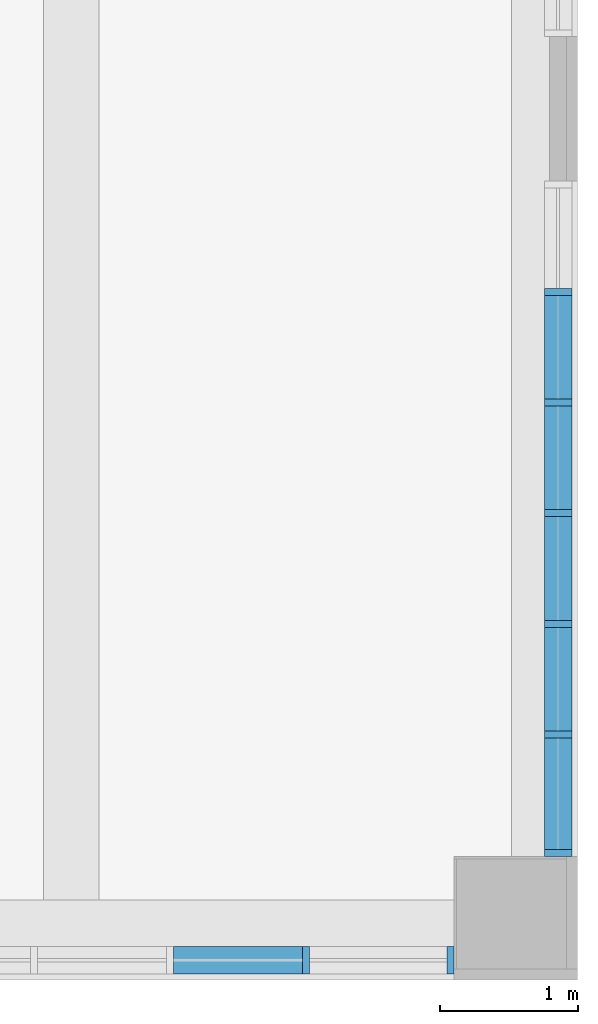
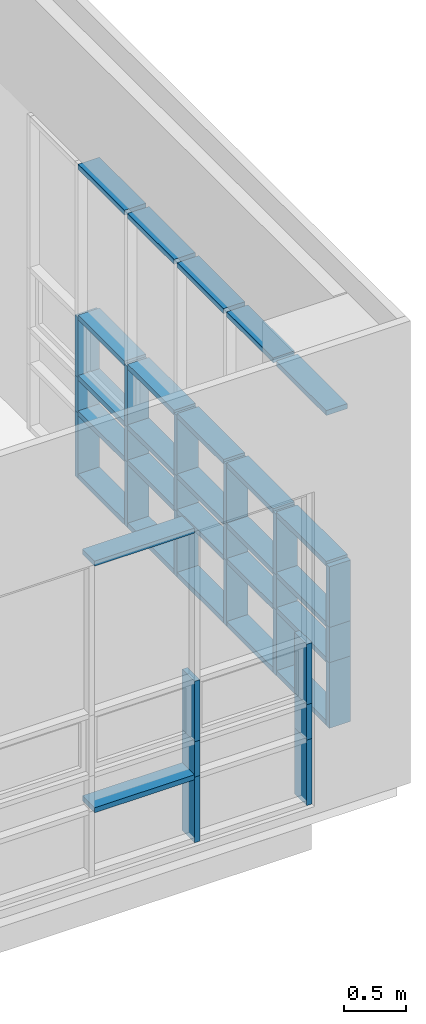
# One storey, part 23 of 74: 51 members, 2 elements without a shape of their own.
"""IFC2X3 building model written with IfcOpenShell, lengths in millimetres."""

from ifc_helpers import new_model, entity, si_unit, converted_unit, derived_unit, direction, frame, origin, origin_2d_with_axis, place, context, subcontext, project, spatial, rectangle, extrude, source, transform, mapped, material, type_object, type_shapes, element, aggregate, save


model = new_model("IFC2X3")

# Units and contexts
model_context = context("Model", 3, precision=0.01, world=origin(), true_north=direction((6.123031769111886e-17, 1.0)))
body_context = subcontext(model_context, "Body", "Model", "MODEL_VIEW")
ifc_project = project(units=[si_unit("LENGTHUNIT", "METRE", prefix="MILLI"), si_unit("AREAUNIT", "SQUARE_METRE"), si_unit("VOLUMEUNIT", "CUBIC_METRE"), converted_unit("PLANEANGLEUNIT", "DEGREE", entity("IfcRatioMeasure", 0.017453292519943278), si_unit("PLANEANGLEUNIT", "RADIAN"), dimensions=[0, 0, 0, 0, 0, 0, 0]), si_unit("MASSUNIT", "GRAM", prefix="KILO"), derived_unit("MASSDENSITYUNIT", [(si_unit("MASSUNIT", "GRAM", prefix="KILO"), 1), (si_unit("LENGTHUNIT", "METRE"), -3)]), derived_unit("MOMENTOFINERTIAUNIT", [(si_unit("LENGTHUNIT", "METRE"), 4)]), si_unit("TIMEUNIT", "SECOND"), si_unit("FREQUENCYUNIT", "HERTZ"), si_unit("THERMODYNAMICTEMPERATUREUNIT", "DEGREE_CELSIUS"), derived_unit("THERMALTRANSMITTANCEUNIT", [(si_unit("MASSUNIT", "GRAM", prefix="KILO"), 1), (si_unit("THERMODYNAMICTEMPERATUREUNIT", "KELVIN"), -1), (si_unit("TIMEUNIT", "SECOND"), -3)]), derived_unit("VOLUMETRICFLOWRATEUNIT", [(si_unit("LENGTHUNIT", "METRE"), 3), (si_unit("TIMEUNIT", "SECOND"), -1)]), derived_unit("MASSFLOWRATEUNIT", [(si_unit("MASSUNIT", "GRAM", prefix="KILO"), 1), (si_unit("TIMEUNIT", "SECOND"), -1)]), derived_unit("ROTATIONALFREQUENCYUNIT", [(si_unit("TIMEUNIT", "SECOND"), -1)]), si_unit("ELECTRICCURRENTUNIT", "AMPERE"), si_unit("ELECTRICVOLTAGEUNIT", "VOLT"), si_unit("POWERUNIT", "WATT"), si_unit("FORCEUNIT", "NEWTON", prefix="KILO"), si_unit("ILLUMINANCEUNIT", "LUX"), si_unit("LUMINOUSFLUXUNIT", "LUMEN"), si_unit("LUMINOUSINTENSITYUNIT", "CANDELA"), derived_unit("USERDEFINED", [(si_unit("MASSUNIT", "GRAM", prefix="KILO"), -1), (si_unit("LENGTHUNIT", "METRE"), -2), (si_unit("TIMEUNIT", "SECOND"), 3), (si_unit("LUMINOUSFLUXUNIT", "LUMEN"), 1)]), derived_unit("SOUNDPOWERUNIT", [(si_unit("MASSUNIT", "GRAM", prefix="KILO"), 1), (si_unit("LENGTHUNIT", "METRE"), 2), (si_unit("TIMEUNIT", "SECOND"), -3)]), derived_unit("SOUNDPRESSUREUNIT", [(si_unit("MASSUNIT", "GRAM", prefix="KILO"), 1), (si_unit("LENGTHUNIT", "METRE"), -1), (si_unit("TIMEUNIT", "SECOND"), -2)]), derived_unit("LINEARVELOCITYUNIT", [(si_unit("LENGTHUNIT", "METRE"), 1), (si_unit("TIMEUNIT", "SECOND"), -1)]), si_unit("PRESSUREUNIT", "PASCAL"), derived_unit("USERDEFINED", [(si_unit("LENGTHUNIT", "METRE"), -2), (si_unit("MASSUNIT", "GRAM", prefix="KILO"), 1), (si_unit("TIMEUNIT", "SECOND"), -2)]), derived_unit("LINEARFORCEUNIT", [(si_unit("MASSUNIT", "GRAM", prefix="KILO"), 1), (si_unit("LENGTHUNIT", "METRE"), 1), (si_unit("TIMEUNIT", "SECOND"), -2), (si_unit("LENGTHUNIT", "METRE"), -1)]), derived_unit("PLANARFORCEUNIT", [(si_unit("MASSUNIT", "GRAM", prefix="KILO"), 1), (si_unit("LENGTHUNIT", "METRE"), 1), (si_unit("TIMEUNIT", "SECOND"), -2), (si_unit("LENGTHUNIT", "METRE"), -2)])], contexts=[model_context])

# Site, building, storey
site_placement = place(None, frame((-14167.972527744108, -657.2125860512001, 0.0)))
site = spatial("IfcSite", under=ifc_project, at=site_placement, Name="Default", CompositionType="ELEMENT")
building_placement = place(site_placement, origin())
building = spatial("IfcBuilding", under=site, at=building_placement, Name="Sample Building", CompositionType="ELEMENT")
storey_placement = place(building_placement, frame((0.0, 0.0, 4800.0)))
storey = spatial("IfcBuildingStorey", under=building, at=storey_placement, Name="지상 2층", CompositionType="ELEMENT", Elevation=4800.000000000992)

# Curtain wall, members
curtain_wall_type = type_object("IfcCurtainWallType", Name="커튼월:CW112-스테인리스 스틸 커튼월", PredefinedType="NOTDEFINED")
curtain_wall_1_placement = place(storey_placement, frame((0.0, 0.0, -4800.0)))
curtain_wall_1 = element("IfcCurtainWall", 1, at=curtain_wall_1_placement, inside=storey, type_object=curtain_wall_type, Name="커튼월:CW112-스테인리스 스틸 커튼월", ObjectType="커튼월:CW112-스테인리스 스틸 커튼월")
ifc_material = material(Name="<Unnamed>")
member_type_1 = type_object("IfcMemberType", Name="직사각형 멀리언:CW200-직사각형 멀리언 50x200mm", PredefinedType="MULLION", material=ifc_material)
shared_shape_1 = source(origin(), body_context, "Body", "SweptSolid", [
    extrude(rectangle(XDim=200.0, YDim=50.0, at=origin_2d_with_axis()), frame((-25.0, 0.0, -650.0), z_axis=(0.0, 0.0, 1.0), x_axis=(0.0, -1.0, 0.0)), (0.0, 0.0, 1.0), 650.0000000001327),
])
type_shapes(member_type_1, [shared_shape_1])
member_1_placement = place(curtain_wall_1_placement, frame((50649.98118746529, 619.71229514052, 4880.0), z_axis=(0.0, 0.0, -1.0), x_axis=(1.0, 0.0, 0.0)))
member_1 = element("IfcMember", 2, at=member_1_placement, type_object=member_type_1, material=ifc_material, Name="직사각형 멀리언:CW200-직사각형 멀리언 50x200mm", ObjectType="직사각형 멀리언:CW200-직사각형 멀리언 50x200mm", context=body_context, shape_type="MappedRepresentation", body=[
    mapped(shared_shape_1, transform((0.0, 0.0, 0.0), scale=1.0)),
])
member_type_2 = type_object("IfcMemberType", Name="직사각형 멀리언:CW200-직사각형 멀리언 50x200mm", PredefinedType="MULLION", material=ifc_material)
shared_shape_2 = source(origin(), body_context, "Body", "SweptSolid", [
    extrude(rectangle(XDim=200.0, YDim=50.0, at=origin_2d_with_axis()), frame((0.0, 0.0, -650.0), z_axis=(0.0, 0.0, 1.0), x_axis=(0.0, -1.0, 0.0)), (0.0, 0.0, 1.0), 650.0000000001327),
])
type_shapes(member_type_2, [shared_shape_2])
member_2_placement = place(curtain_wall_1_placement, frame((49573.32230636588, 619.7122951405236, 4880.0), z_axis=(0.0, 0.0, -1.0), x_axis=(1.0, 0.0, 0.0)))
member_2 = element("IfcMember", 3, at=member_2_placement, type_object=member_type_2, material=ifc_material, Name="직사각형 멀리언:CW200-직사각형 멀리언 50x200mm", ObjectType="직사각형 멀리언:CW200-직사각형 멀리언 50x200mm", context=body_context, shape_type="MappedRepresentation", body=[
    mapped(shared_shape_2, transform((0.0, 0.0, 0.0), scale=1.0)),
])

curtain_wall_2_placement = place(storey_placement, frame((0.0, 0.0, -4800.0)))
curtain_wall_2 = element("IfcCurtainWall", 4, at=curtain_wall_2_placement, inside=storey, type_object=curtain_wall_type, Name="커튼월:CW112-스테인리스 스틸 커튼월", ObjectType="커튼월:CW112-스테인리스 스틸 커튼월")
member_3_placement = place(curtain_wall_2_placement, frame((51405.46382893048, 2261.3792527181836, 4880.0), z_axis=(0.0, 0.0, -1.0), x_axis=(0.0, 1.0, 0.0)))
member_3 = element("IfcMember", 5, at=member_3_placement, type_object=member_type_2, material=ifc_material, Name="직사각형 멀리언:CW200-직사각형 멀리언 50x200mm", ObjectType="직사각형 멀리언:CW200-직사각형 멀리언 50x200mm", context=body_context, shape_type="MappedRepresentation", body=[
    mapped(shared_shape_2, transform((0.0, 0.0, 0.0), scale=1.0)),
])
member_4_placement = place(curtain_wall_2_placement, frame((51405.46382893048, 3065.5459193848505, 4880.0), z_axis=(0.0, 0.0, -1.0), x_axis=(0.0, 1.0, 0.0)))
member_4 = element("IfcMember", 6, at=member_4_placement, type_object=member_type_2, material=ifc_material, Name="직사각형 멀리언:CW200-직사각형 멀리언 50x200mm", ObjectType="직사각형 멀리언:CW200-직사각형 멀리언 50x200mm", context=body_context, shape_type="MappedRepresentation", body=[
    mapped(shared_shape_2, transform((0.0, 0.0, 0.0), scale=1.0)),
])
member_5_placement = place(curtain_wall_2_placement, frame((51405.463828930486, 3869.7125860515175, 4880.0), z_axis=(0.0, 0.0, -1.0), x_axis=(0.0, 1.0, 0.0)))
member_5 = element("IfcMember", 7, at=member_5_placement, type_object=member_type_2, material=ifc_material, Name="직사각형 멀리언:CW200-직사각형 멀리언 50x200mm", ObjectType="직사각형 멀리언:CW200-직사각형 멀리언 50x200mm", context=body_context, shape_type="MappedRepresentation", body=[
    mapped(shared_shape_2, transform((0.0, 0.0, 0.0), scale=1.0)),
])
member_6_placement = place(curtain_wall_2_placement, frame((51405.463828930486, 4673.879252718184, 4880.0), z_axis=(0.0, 0.0, -1.0), x_axis=(0.0, 1.0, 0.0)))
member_6 = element("IfcMember", 8, at=member_6_placement, type_object=member_type_2, material=ifc_material, Name="직사각형 멀리언:CW200-직사각형 멀리언 50x200mm", ObjectType="직사각형 멀리언:CW200-직사각형 멀리언 50x200mm", context=body_context, shape_type="MappedRepresentation", body=[
    mapped(shared_shape_2, transform((0.0, 0.0, 0.0), scale=1.0)),
])
member_7_placement = place(curtain_wall_2_placement, frame((51405.463828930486, 5478.04591938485, 4880.0), z_axis=(0.0, 0.0, -1.0), x_axis=(0.0, 1.0, 0.0)))
member_7 = element("IfcMember", 9, at=member_7_placement, type_object=member_type_2, material=ifc_material, Name="직사각형 멀리언:CW200-직사각형 멀리언 50x200mm", ObjectType="직사각형 멀리언:CW200-직사각형 멀리언 50x200mm", context=body_context, shape_type="MappedRepresentation", body=[
    mapped(shared_shape_2, transform((0.0, 0.0, 0.0), scale=1.0)),
])
member_type_3 = type_object("IfcMemberType", Name="직사각형 멀리언:CW200-직사각형 멀리언 50x200mm", PredefinedType="MULLION", material=ifc_material)
shared_shape_3 = source(origin(), body_context, "Body", "SweptSolid", [
    extrude(rectangle(XDim=200.0, YDim=50.0, at=origin_2d_with_axis()), frame((-25.0, 0.0, -600.0), z_axis=(0.0, 0.0, 1.0), x_axis=(0.0, -1.0, 0.0)), (0.0, 0.0, 1.0), 600.0),
])
type_shapes(member_type_3, [shared_shape_3])
member_8_placement = place(curtain_wall_2_placement, frame((51405.46382893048, 1375.212307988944, 6480.0), z_axis=(0.0, 0.0, 1.0), x_axis=(0.0, -1.0, 0.0)))
member_8 = element("IfcMember", 10, at=member_8_placement, type_object=member_type_3, material=ifc_material, Name="직사각형 멀리언:CW200-직사각형 멀리언 50x200mm", ObjectType="직사각형 멀리언:CW200-직사각형 멀리언 50x200mm", context=body_context, shape_type="MappedRepresentation", body=[
    mapped(shared_shape_3, transform((0.0, 0.0, 0.0), scale=1.0)),
])

# Member
member_type_4 = type_object("IfcMemberType", Name="직사각형 멀리언:CW200-직사각형 멀리언 50x200mm", PredefinedType="MULLION", material=ifc_material)
shared_shape_4 = source(origin(), body_context, "Body", "SweptSolid", [
    extrude(rectangle(XDim=200.0, YDim=50.0, at=origin_2d_with_axis()), frame((-25.0, 0.0, -600.0), z_axis=(0.0, 0.0, 1.0), x_axis=(0.0, -1.0, 0.0)), (0.0, 0.0, 1.0), 600.0),
])
type_shapes(member_type_4, [shared_shape_4])
member_9_placement = place(curtain_wall_1_placement, frame((50649.98118746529, 619.71229514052, 5880.0), z_axis=(0.0, 0.0, -1.0), x_axis=(1.0, 0.0, 0.0)))
member_9 = element("IfcMember", 11, at=member_9_placement, type_object=member_type_4, material=ifc_material, Name="직사각형 멀리언:CW200-직사각형 멀리언 50x200mm", ObjectType="직사각형 멀리언:CW200-직사각형 멀리언 50x200mm", context=body_context, shape_type="MappedRepresentation", body=[
    mapped(shared_shape_4, transform((0.0, 0.0, 0.0), scale=1.0)),
])

member_type_5 = type_object("IfcMemberType", Name="직사각형 멀리언:CW200-직사각형 멀리언 50x200mm", PredefinedType="MULLION", material=ifc_material)
shared_shape_5 = source(origin(), body_context, "Body", "SweptSolid", [
    extrude(rectangle(XDim=200.0, YDim=50.0, at=origin_2d_with_axis()), frame((-25.0, 0.0, -350.0), z_axis=(0.0, 0.0, 1.0), x_axis=(0.0, -1.0, 0.0)), (0.0, 0.0, 1.0), 349.9999999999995),
])
type_shapes(member_type_5, [shared_shape_5])
member_10_placement = place(curtain_wall_2_placement, frame((51405.46382893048, 1375.212307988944, 5880.0), z_axis=(0.0, 0.0, 1.0), x_axis=(0.0, -1.0, 0.0)))
member_10 = element("IfcMember", 12, at=member_10_placement, type_object=member_type_5, material=ifc_material, Name="직사각형 멀리언:CW200-직사각형 멀리언 50x200mm", ObjectType="직사각형 멀리언:CW200-직사각형 멀리언 50x200mm", context=body_context, shape_type="MappedRepresentation", body=[
    mapped(shared_shape_5, transform((0.0, 0.0, 0.0), scale=1.0)),
])

member_type_6 = type_object("IfcMemberType", Name="직사각형 멀리언:CW200-직사각형 멀리언 50x200mm", PredefinedType="MULLION", material=ifc_material)
shared_shape_6 = source(origin(), body_context, "Body", "SweptSolid", [
    extrude(rectangle(XDim=200.0, YDim=50.0, at=origin_2d_with_axis()), frame((0.0, 0.0, -600.0), z_axis=(0.0, 0.0, 1.0), x_axis=(0.0, -1.0, 0.0)), (0.0, 0.0, 1.0), 600.0),
])
type_shapes(member_type_6, [shared_shape_6])
member_11_placement = place(curtain_wall_1_placement, frame((49573.32230636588, 619.7122951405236, 5880.0), z_axis=(0.0, 0.0, -1.0), x_axis=(1.0, 0.0, 0.0)))
member_11 = element("IfcMember", 13, at=member_11_placement, type_object=member_type_6, material=ifc_material, Name="직사각형 멀리언:CW200-직사각형 멀리언 50x200mm", ObjectType="직사각형 멀리언:CW200-직사각형 멀리언 50x200mm", context=body_context, shape_type="MappedRepresentation", body=[
    mapped(shared_shape_6, transform((0.0, 0.0, 0.0), scale=1.0)),
])

member_12_placement = place(curtain_wall_2_placement, frame((51405.46382893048, 2261.3792527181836, 5880.0), z_axis=(0.0, 0.0, -1.0), x_axis=(0.0, 1.0, 0.0)))
member_12 = element("IfcMember", 14, at=member_12_placement, type_object=member_type_6, material=ifc_material, Name="직사각형 멀리언:CW200-직사각형 멀리언 50x200mm", ObjectType="직사각형 멀리언:CW200-직사각형 멀리언 50x200mm", context=body_context, shape_type="MappedRepresentation", body=[
    mapped(shared_shape_6, transform((0.0, 0.0, 0.0), scale=1.0)),
])

member_13_placement = place(curtain_wall_2_placement, frame((51405.46382893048, 3065.5459193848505, 5880.0), z_axis=(0.0, 0.0, -1.0), x_axis=(0.0, 1.0, 0.0)))
member_13 = element("IfcMember", 15, at=member_13_placement, type_object=member_type_6, material=ifc_material, Name="직사각형 멀리언:CW200-직사각형 멀리언 50x200mm", ObjectType="직사각형 멀리언:CW200-직사각형 멀리언 50x200mm", context=body_context, shape_type="MappedRepresentation", body=[
    mapped(shared_shape_6, transform((0.0, 0.0, 0.0), scale=1.0)),
])

member_14_placement = place(curtain_wall_2_placement, frame((51405.463828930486, 3869.7125860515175, 5880.0), z_axis=(0.0, 0.0, -1.0), x_axis=(0.0, 1.0, 0.0)))
member_14 = element("IfcMember", 16, at=member_14_placement, type_object=member_type_6, material=ifc_material, Name="직사각형 멀리언:CW200-직사각형 멀리언 50x200mm", ObjectType="직사각형 멀리언:CW200-직사각형 멀리언 50x200mm", context=body_context, shape_type="MappedRepresentation", body=[
    mapped(shared_shape_6, transform((0.0, 0.0, 0.0), scale=1.0)),
])

member_15_placement = place(curtain_wall_2_placement, frame((51405.463828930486, 4673.879252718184, 5880.0), z_axis=(0.0, 0.0, -1.0), x_axis=(0.0, 1.0, 0.0)))
member_15 = element("IfcMember", 17, at=member_15_placement, type_object=member_type_6, material=ifc_material, Name="직사각형 멀리언:CW200-직사각형 멀리언 50x200mm", ObjectType="직사각형 멀리언:CW200-직사각형 멀리언 50x200mm", context=body_context, shape_type="MappedRepresentation", body=[
    mapped(shared_shape_6, transform((0.0, 0.0, 0.0), scale=1.0)),
])

member_16_placement = place(curtain_wall_2_placement, frame((51405.463828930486, 5478.04591938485, 5880.0), z_axis=(0.0, 0.0, -1.0), x_axis=(0.0, 1.0, 0.0)))
member_16 = element("IfcMember", 18, at=member_16_placement, type_object=member_type_6, material=ifc_material, Name="직사각형 멀리언:CW200-직사각형 멀리언 50x200mm", ObjectType="직사각형 멀리언:CW200-직사각형 멀리언 50x200mm", context=body_context, shape_type="MappedRepresentation", body=[
    mapped(shared_shape_6, transform((0.0, 0.0, 0.0), scale=1.0)),
])

member_type_7 = type_object("IfcMemberType", Name="직사각형 멀리언:CW200-직사각형 멀리언 50x200mm", PredefinedType="MULLION", material=ifc_material)
shared_shape_7 = source(origin(), body_context, "Body", "SweptSolid", [
    extrude(rectangle(XDim=200.0, YDim=50.0, at=origin_2d_with_axis()), frame((-25.0, 0.0, -350.0), z_axis=(0.0, 0.0, 1.0), x_axis=(0.0, -1.0, 0.0)), (0.0, 0.0, 1.0), 349.9999999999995),
])
type_shapes(member_type_7, [shared_shape_7])
member_17_placement = place(curtain_wall_1_placement, frame((50649.98118746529, 619.71229514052, 5530.0), z_axis=(0.0, 0.0, -1.0), x_axis=(1.0, 0.0, 0.0)))
member_17 = element("IfcMember", 19, at=member_17_placement, type_object=member_type_7, material=ifc_material, Name="직사각형 멀리언:CW200-직사각형 멀리언 50x200mm", ObjectType="직사각형 멀리언:CW200-직사각형 멀리언 50x200mm", context=body_context, shape_type="MappedRepresentation", body=[
    mapped(shared_shape_7, transform((0.0, 0.0, 0.0), scale=1.0)),
])

member_type_8 = type_object("IfcMemberType", Name="직사각형 멀리언:CW200-직사각형 멀리언 50x200mm", PredefinedType="MULLION", material=ifc_material)
shared_shape_8 = source(origin(), body_context, "Body", "SweptSolid", [
    extrude(rectangle(XDim=200.0, YDim=50.0, at=origin_2d_with_axis()), frame((-25.0, 0.0, -650.0), z_axis=(0.0, 0.0, 1.0), x_axis=(0.0, -1.0, 0.0)), (0.0, 0.0, 1.0), 650.0000000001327),
])
type_shapes(member_type_8, [shared_shape_8])
member_18_placement = place(curtain_wall_2_placement, frame((51405.46382893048, 1375.212307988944, 5530.0), z_axis=(0.0, 0.0, 1.0), x_axis=(0.0, -1.0, 0.0)))
member_18 = element("IfcMember", 20, at=member_18_placement, type_object=member_type_8, material=ifc_material, Name="직사각형 멀리언:CW200-직사각형 멀리언 50x200mm", ObjectType="직사각형 멀리언:CW200-직사각형 멀리언 50x200mm", context=body_context, shape_type="MappedRepresentation", body=[
    mapped(shared_shape_8, transform((0.0, 0.0, 0.0), scale=1.0)),
])

member_type_9 = type_object("IfcMemberType", Name="직사각형 멀리언:CW200-직사각형 멀리언 50x200mm", PredefinedType="MULLION", material=ifc_material)
shared_shape_9 = source(origin(), body_context, "Body", "SweptSolid", [
    extrude(rectangle(XDim=200.0, YDim=50.0, at=origin_2d_with_axis()), frame((0.0, 0.0, -350.0), z_axis=(0.0, 0.0, 1.0), x_axis=(0.0, -1.0, 0.0)), (0.0, 0.0, 1.0), 349.9999999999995),
])
type_shapes(member_type_9, [shared_shape_9])
member_19_placement = place(curtain_wall_1_placement, frame((49573.32230636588, 619.7122951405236, 5530.0), z_axis=(0.0, 0.0, -1.0), x_axis=(1.0, 0.0, 0.0)))
member_19 = element("IfcMember", 21, at=member_19_placement, type_object=member_type_9, material=ifc_material, Name="직사각형 멀리언:CW200-직사각형 멀리언 50x200mm", ObjectType="직사각형 멀리언:CW200-직사각형 멀리언 50x200mm", context=body_context, shape_type="MappedRepresentation", body=[
    mapped(shared_shape_9, transform((0.0, 0.0, 0.0), scale=1.0)),
])

member_20_placement = place(curtain_wall_2_placement, frame((51405.46382893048, 2261.3792527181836, 5530.0), z_axis=(0.0, 0.0, -1.0), x_axis=(0.0, 1.0, 0.0)))
member_20 = element("IfcMember", 22, at=member_20_placement, type_object=member_type_9, material=ifc_material, Name="직사각형 멀리언:CW200-직사각형 멀리언 50x200mm", ObjectType="직사각형 멀리언:CW200-직사각형 멀리언 50x200mm", context=body_context, shape_type="MappedRepresentation", body=[
    mapped(shared_shape_9, transform((0.0, 0.0, 0.0), scale=1.0)),
])

member_21_placement = place(curtain_wall_2_placement, frame((51405.46382893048, 3065.5459193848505, 5530.0), z_axis=(0.0, 0.0, -1.0), x_axis=(0.0, 1.0, 0.0)))
member_21 = element("IfcMember", 23, at=member_21_placement, type_object=member_type_9, material=ifc_material, Name="직사각형 멀리언:CW200-직사각형 멀리언 50x200mm", ObjectType="직사각형 멀리언:CW200-직사각형 멀리언 50x200mm", context=body_context, shape_type="MappedRepresentation", body=[
    mapped(shared_shape_9, transform((0.0, 0.0, 0.0), scale=1.0)),
])

member_22_placement = place(curtain_wall_2_placement, frame((51405.463828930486, 3869.7125860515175, 5530.0), z_axis=(0.0, 0.0, -1.0), x_axis=(0.0, 1.0, 0.0)))
member_22 = element("IfcMember", 24, at=member_22_placement, type_object=member_type_9, material=ifc_material, Name="직사각형 멀리언:CW200-직사각형 멀리언 50x200mm", ObjectType="직사각형 멀리언:CW200-직사각형 멀리언 50x200mm", context=body_context, shape_type="MappedRepresentation", body=[
    mapped(shared_shape_9, transform((0.0, 0.0, 0.0), scale=1.0)),
])

member_23_placement = place(curtain_wall_2_placement, frame((51405.463828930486, 4673.879252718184, 5530.0), z_axis=(0.0, 0.0, -1.0), x_axis=(0.0, 1.0, 0.0)))
member_23 = element("IfcMember", 25, at=member_23_placement, type_object=member_type_9, material=ifc_material, Name="직사각형 멀리언:CW200-직사각형 멀리언 50x200mm", ObjectType="직사각형 멀리언:CW200-직사각형 멀리언 50x200mm", context=body_context, shape_type="MappedRepresentation", body=[
    mapped(shared_shape_9, transform((0.0, 0.0, 0.0), scale=1.0)),
])

member_24_placement = place(curtain_wall_2_placement, frame((51405.463828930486, 5478.04591938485, 5530.0), z_axis=(0.0, 0.0, -1.0), x_axis=(0.0, 1.0, 0.0)))
member_24 = element("IfcMember", 26, at=member_24_placement, type_object=member_type_9, material=ifc_material, Name="직사각형 멀리언:CW200-직사각형 멀리언 50x200mm", ObjectType="직사각형 멀리언:CW200-직사각형 멀리언 50x200mm", context=body_context, shape_type="MappedRepresentation", body=[
    mapped(shared_shape_9, transform((0.0, 0.0, 0.0), scale=1.0)),
])

member_type_10 = type_object("IfcMemberType", Name="직사각형 멀리언:CW200-직사각형 멀리언 50x200mm", PredefinedType="MULLION", material=ifc_material)
shared_shape_10 = source(origin(), body_context, "Body", "SweptSolid", [
    extrude(rectangle(XDim=200.0, YDim=50.0, at=origin_2d_with_axis()), frame((0.0, 0.0, -937.5000000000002), z_axis=(0.0, 0.0, 1.0), x_axis=(0.0, -1.0, 0.0)), (0.0, 0.0, 1.0), 937.5000000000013),
])
type_shapes(member_type_10, [shared_shape_10])
member_25_placement = place(curtain_wall_1_placement, frame((49548.32230636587, 619.7122951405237, 5530.0), z_axis=(1.0, 0.0, 0.0), x_axis=(0.0, 0.0, 1.0)))
member_25 = element("IfcMember", 27, at=member_25_placement, type_object=member_type_10, material=ifc_material, Name="직사각형 멀리언:CW200-직사각형 멀리언 50x200mm", ObjectType="직사각형 멀리언:CW200-직사각형 멀리언 50x200mm", context=body_context, shape_type="MappedRepresentation", body=[
    mapped(shared_shape_10, transform((0.0, 0.0, 0.0), scale=1.0)),
])

member_type_11 = type_object("IfcMemberType", Name="직사각형 멀리언:CW200-직사각형 멀리언 50x200mm", PredefinedType="MULLION", material=ifc_material)
shared_shape_11 = source(origin(), body_context, "Body", "SweptSolid", [
    extrude(rectangle(XDim=200.0, YDim=50.0, at=origin_2d_with_axis()), frame((-25.0, 0.0, -937.4999999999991), z_axis=(0.0, 0.0, 1.0), x_axis=(0.0, -1.0, 0.0)), (0.0, 0.0, 1.0), 937.5000000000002),
])
type_shapes(member_type_11, [shared_shape_11])
member_26_placement = place(curtain_wall_1_placement, frame((49548.32230636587, 619.7122951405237, 8000.0), z_axis=(1.0, 0.0, 0.0), x_axis=(0.0, 0.0, 1.0)))
member_26 = element("IfcMember", 28, at=member_26_placement, type_object=member_type_11, material=ifc_material, Name="직사각형 멀리언:CW200-직사각형 멀리언 50x200mm", ObjectType="직사각형 멀리언:CW200-직사각형 멀리언 50x200mm", context=body_context, shape_type="MappedRepresentation", body=[
    mapped(shared_shape_11, transform((0.0, 0.0, 0.0), scale=1.0)),
])

aggregate(curtain_wall_1, [member_1, member_9, member_26, member_2, member_11, member_17, member_25, member_19])

member_type_12 = type_object("IfcMemberType", Name="직사각형 멀리언:CW200-직사각형 멀리언 50x200mm", PredefinedType="MULLION", material=ifc_material)
shared_shape_12 = source(origin(), body_context, "Body", "SweptSolid", [
    extrude(rectangle(XDim=200.0, YDim=50.0, at=origin_2d_with_axis()), frame((-25.0, 0.0, -811.1669447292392), z_axis=(0.0, 0.0, 1.0), x_axis=(0.0, -1.0, 0.0)), (0.0, 0.0, 1.0), 811.1669447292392),
])
type_shapes(member_type_12, [shared_shape_12])
member_27_placement = place(curtain_wall_2_placement, frame((51405.46382893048, 1425.212307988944, 4880.0), z_axis=(0.0, -1.0, 0.0), x_axis=(0.0, 0.0, -1.0)))
member_27 = element("IfcMember", 29, at=member_27_placement, type_object=member_type_12, material=ifc_material, Name="직사각형 멀리언:CW200-직사각형 멀리언 50x200mm", ObjectType="직사각형 멀리언:CW200-직사각형 멀리언 50x200mm", context=body_context, shape_type="MappedRepresentation", body=[
    mapped(shared_shape_12, transform((0.0, 0.0, 0.0), scale=1.0)),
])

member_type_13 = type_object("IfcMemberType", Name="직사각형 멀리언:CW200-직사각형 멀리언 50x200mm", PredefinedType="MULLION", material=ifc_material)
shared_shape_13 = source(origin(), body_context, "Body", "SweptSolid", [
    extrude(rectangle(XDim=200.0, YDim=50.0, at=origin_2d_with_axis()), frame((0.0, 0.0, -811.1669447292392), z_axis=(0.0, 0.0, 1.0), x_axis=(0.0, -1.0, 0.0)), (0.0, 0.0, 1.0), 811.1669447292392),
])
type_shapes(member_type_13, [shared_shape_13])
member_28_placement = place(curtain_wall_2_placement, frame((51405.46382893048, 2236.3792527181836, 6480.0), z_axis=(0.0, 1.0, 0.0), x_axis=(0.0, 0.0, 1.0)))
member_28 = element("IfcMember", 30, at=member_28_placement, type_object=member_type_13, material=ifc_material, Name="직사각형 멀리언:CW200-직사각형 멀리언 50x200mm", ObjectType="직사각형 멀리언:CW200-직사각형 멀리언 50x200mm", context=body_context, shape_type="MappedRepresentation", body=[
    mapped(shared_shape_13, transform((0.0, 0.0, 0.0), scale=1.0)),
])

member_29_placement = place(curtain_wall_2_placement, frame((51405.46382893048, 2236.3792527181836, 5880.0), z_axis=(0.0, 1.0, 0.0), x_axis=(0.0, 0.0, 1.0)))
member_29 = element("IfcMember", 31, at=member_29_placement, type_object=member_type_13, material=ifc_material, Name="직사각형 멀리언:CW200-직사각형 멀리언 50x200mm", ObjectType="직사각형 멀리언:CW200-직사각형 멀리언 50x200mm", context=body_context, shape_type="MappedRepresentation", body=[
    mapped(shared_shape_13, transform((0.0, 0.0, 0.0), scale=1.0)),
])

member_30_placement = place(curtain_wall_2_placement, frame((51405.46382893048, 2236.3792527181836, 5530.0), z_axis=(0.0, 1.0, 0.0), x_axis=(0.0, 0.0, 1.0)))
member_30 = element("IfcMember", 32, at=member_30_placement, type_object=member_type_13, material=ifc_material, Name="직사각형 멀리언:CW200-직사각형 멀리언 50x200mm", ObjectType="직사각형 멀리언:CW200-직사각형 멀리언 50x200mm", context=body_context, shape_type="MappedRepresentation", body=[
    mapped(shared_shape_13, transform((0.0, 0.0, 0.0), scale=1.0)),
])

member_type_14 = type_object("IfcMemberType", Name="직사각형 멀리언:CW200-직사각형 멀리언 50x200mm", PredefinedType="MULLION", material=ifc_material)
shared_shape_14 = source(origin(), body_context, "Body", "SweptSolid", [
    extrude(rectangle(XDim=200.0, YDim=50.0, at=origin_2d_with_axis()), frame((-25.0, 0.0, -811.1669447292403), z_axis=(0.0, 0.0, 1.0), x_axis=(0.0, -1.0, 0.0)), (0.0, 0.0, 1.0), 811.1669447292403),
])
type_shapes(member_type_14, [shared_shape_14])
member_31_placement = place(curtain_wall_2_placement, frame((51405.46382893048, 2236.379252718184, 8000.0), z_axis=(0.0, 1.0, 0.0), x_axis=(0.0, 0.0, 1.0)))
member_31 = element("IfcMember", 33, at=member_31_placement, type_object=member_type_14, material=ifc_material, Name="직사각형 멀리언:CW200-직사각형 멀리언 50x200mm", ObjectType="직사각형 멀리언:CW200-직사각형 멀리언 50x200mm", context=body_context, shape_type="MappedRepresentation", body=[
    mapped(shared_shape_14, transform((0.0, 0.0, 0.0), scale=1.0)),
])

member_type_15 = type_object("IfcMemberType", Name="직사각형 멀리언:CW200-직사각형 멀리언 50x200mm", PredefinedType="MULLION", material=ifc_material)
shared_shape_15 = source(origin(), body_context, "Body", "SweptSolid", [
    extrude(rectangle(XDim=200.0, YDim=50.0, at=origin_2d_with_axis()), frame((-25.0, 0.0, -754.1666666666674), z_axis=(0.0, 0.0, 1.0), x_axis=(0.0, -1.0, 0.0)), (0.0, 0.0, 1.0), 754.1666666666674),
])
type_shapes(member_type_15, [shared_shape_15])
member_32_placement = place(curtain_wall_2_placement, frame((51405.46382893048, 2286.3792527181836, 4880.0), z_axis=(0.0, -1.0, 0.0), x_axis=(0.0, 0.0, -1.0)))
member_32 = element("IfcMember", 34, at=member_32_placement, type_object=member_type_15, material=ifc_material, Name="직사각형 멀리언:CW200-직사각형 멀리언 50x200mm", ObjectType="직사각형 멀리언:CW200-직사각형 멀리언 50x200mm", context=body_context, shape_type="MappedRepresentation", body=[
    mapped(shared_shape_15, transform((0.0, 0.0, 0.0), scale=1.0)),
])

member_33_placement = place(curtain_wall_2_placement, frame((51405.46382893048, 3090.54591938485, 4880.0), z_axis=(0.0, -1.0, 0.0), x_axis=(0.0, 0.0, -1.0)))
member_33 = element("IfcMember", 35, at=member_33_placement, type_object=member_type_15, material=ifc_material, Name="직사각형 멀리언:CW200-직사각형 멀리언 50x200mm", ObjectType="직사각형 멀리언:CW200-직사각형 멀리언 50x200mm", context=body_context, shape_type="MappedRepresentation", body=[
    mapped(shared_shape_15, transform((0.0, 0.0, 0.0), scale=1.0)),
])

member_34_placement = place(curtain_wall_2_placement, frame((51405.463828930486, 3894.712586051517, 4880.0), z_axis=(0.0, -1.0, 0.0), x_axis=(0.0, 0.0, -1.0)))
member_34 = element("IfcMember", 36, at=member_34_placement, type_object=member_type_15, material=ifc_material, Name="직사각형 멀리언:CW200-직사각형 멀리언 50x200mm", ObjectType="직사각형 멀리언:CW200-직사각형 멀리언 50x200mm", context=body_context, shape_type="MappedRepresentation", body=[
    mapped(shared_shape_15, transform((0.0, 0.0, 0.0), scale=1.0)),
])

member_35_placement = place(curtain_wall_2_placement, frame((51405.463828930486, 4698.879252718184, 4880.0), z_axis=(0.0, -1.0, 0.0), x_axis=(0.0, 0.0, -1.0)))
member_35 = element("IfcMember", 37, at=member_35_placement, type_object=member_type_15, material=ifc_material, Name="직사각형 멀리언:CW200-직사각형 멀리언 50x200mm", ObjectType="직사각형 멀리언:CW200-직사각형 멀리언 50x200mm", context=body_context, shape_type="MappedRepresentation", body=[
    mapped(shared_shape_15, transform((0.0, 0.0, 0.0), scale=1.0)),
])

member_type_16 = type_object("IfcMemberType", Name="직사각형 멀리언:CW200-직사각형 멀리언 50x200mm", PredefinedType="MULLION", material=ifc_material)
shared_shape_16 = source(origin(), body_context, "Body", "SweptSolid", [
    extrude(rectangle(XDim=200.0, YDim=50.0, at=origin_2d_with_axis()), frame((0.0, 0.0, -754.1666666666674), z_axis=(0.0, 0.0, 1.0), x_axis=(0.0, -1.0, 0.0)), (0.0, 0.0, 1.0), 754.1666666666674),
])
type_shapes(member_type_16, [shared_shape_16])
member_36_placement = place(curtain_wall_2_placement, frame((51405.46382893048, 3040.5459193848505, 6480.0), z_axis=(0.0, 1.0, 0.0), x_axis=(0.0, 0.0, 1.0)))
member_36 = element("IfcMember", 38, at=member_36_placement, type_object=member_type_16, material=ifc_material, Name="직사각형 멀리언:CW200-직사각형 멀리언 50x200mm", ObjectType="직사각형 멀리언:CW200-직사각형 멀리언 50x200mm", context=body_context, shape_type="MappedRepresentation", body=[
    mapped(shared_shape_16, transform((0.0, 0.0, 0.0), scale=1.0)),
])

member_37_placement = place(curtain_wall_2_placement, frame((51405.463828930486, 3844.7125860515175, 6480.0), z_axis=(0.0, 1.0, 0.0), x_axis=(0.0, 0.0, 1.0)))
member_37 = element("IfcMember", 39, at=member_37_placement, type_object=member_type_16, material=ifc_material, Name="직사각형 멀리언:CW200-직사각형 멀리언 50x200mm", ObjectType="직사각형 멀리언:CW200-직사각형 멀리언 50x200mm", context=body_context, shape_type="MappedRepresentation", body=[
    mapped(shared_shape_16, transform((0.0, 0.0, 0.0), scale=1.0)),
])

member_38_placement = place(curtain_wall_2_placement, frame((51405.463828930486, 4648.879252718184, 6480.0), z_axis=(0.0, 1.0, 0.0), x_axis=(0.0, 0.0, 1.0)))
member_38 = element("IfcMember", 40, at=member_38_placement, type_object=member_type_16, material=ifc_material, Name="직사각형 멀리언:CW200-직사각형 멀리언 50x200mm", ObjectType="직사각형 멀리언:CW200-직사각형 멀리언 50x200mm", context=body_context, shape_type="MappedRepresentation", body=[
    mapped(shared_shape_16, transform((0.0, 0.0, 0.0), scale=1.0)),
])

member_39_placement = place(curtain_wall_2_placement, frame((51405.463828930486, 5453.04591938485, 6480.0), z_axis=(0.0, 1.0, 0.0), x_axis=(0.0, 0.0, 1.0)))
member_39 = element("IfcMember", 41, at=member_39_placement, type_object=member_type_16, material=ifc_material, Name="직사각형 멀리언:CW200-직사각형 멀리언 50x200mm", ObjectType="직사각형 멀리언:CW200-직사각형 멀리언 50x200mm", context=body_context, shape_type="MappedRepresentation", body=[
    mapped(shared_shape_16, transform((0.0, 0.0, 0.0), scale=1.0)),
])

member_40_placement = place(curtain_wall_2_placement, frame((51405.46382893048, 3040.5459193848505, 5880.0), z_axis=(0.0, 1.0, 0.0), x_axis=(0.0, 0.0, 1.0)))
member_40 = element("IfcMember", 42, at=member_40_placement, type_object=member_type_16, material=ifc_material, Name="직사각형 멀리언:CW200-직사각형 멀리언 50x200mm", ObjectType="직사각형 멀리언:CW200-직사각형 멀리언 50x200mm", context=body_context, shape_type="MappedRepresentation", body=[
    mapped(shared_shape_16, transform((0.0, 0.0, 0.0), scale=1.0)),
])

member_41_placement = place(curtain_wall_2_placement, frame((51405.463828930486, 3844.7125860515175, 5880.0), z_axis=(0.0, 1.0, 0.0), x_axis=(0.0, 0.0, 1.0)))
member_41 = element("IfcMember", 43, at=member_41_placement, type_object=member_type_16, material=ifc_material, Name="직사각형 멀리언:CW200-직사각형 멀리언 50x200mm", ObjectType="직사각형 멀리언:CW200-직사각형 멀리언 50x200mm", context=body_context, shape_type="MappedRepresentation", body=[
    mapped(shared_shape_16, transform((0.0, 0.0, 0.0), scale=1.0)),
])

member_42_placement = place(curtain_wall_2_placement, frame((51405.463828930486, 4648.879252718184, 5880.0), z_axis=(0.0, 1.0, 0.0), x_axis=(0.0, 0.0, 1.0)))
member_42 = element("IfcMember", 44, at=member_42_placement, type_object=member_type_16, material=ifc_material, Name="직사각형 멀리언:CW200-직사각형 멀리언 50x200mm", ObjectType="직사각형 멀리언:CW200-직사각형 멀리언 50x200mm", context=body_context, shape_type="MappedRepresentation", body=[
    mapped(shared_shape_16, transform((0.0, 0.0, 0.0), scale=1.0)),
])

member_43_placement = place(curtain_wall_2_placement, frame((51405.463828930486, 5453.04591938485, 5880.0), z_axis=(0.0, 1.0, 0.0), x_axis=(0.0, 0.0, 1.0)))
member_43 = element("IfcMember", 45, at=member_43_placement, type_object=member_type_16, material=ifc_material, Name="직사각형 멀리언:CW200-직사각형 멀리언 50x200mm", ObjectType="직사각형 멀리언:CW200-직사각형 멀리언 50x200mm", context=body_context, shape_type="MappedRepresentation", body=[
    mapped(shared_shape_16, transform((0.0, 0.0, 0.0), scale=1.0)),
])

member_44_placement = place(curtain_wall_2_placement, frame((51405.46382893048, 3040.5459193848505, 5530.0), z_axis=(0.0, 1.0, 0.0), x_axis=(0.0, 0.0, 1.0)))
member_44 = element("IfcMember", 46, at=member_44_placement, type_object=member_type_16, material=ifc_material, Name="직사각형 멀리언:CW200-직사각형 멀리언 50x200mm", ObjectType="직사각형 멀리언:CW200-직사각형 멀리언 50x200mm", context=body_context, shape_type="MappedRepresentation", body=[
    mapped(shared_shape_16, transform((0.0, 0.0, 0.0), scale=1.0)),
])

member_45_placement = place(curtain_wall_2_placement, frame((51405.463828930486, 3844.7125860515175, 5530.0), z_axis=(0.0, 1.0, 0.0), x_axis=(0.0, 0.0, 1.0)))
member_45 = element("IfcMember", 47, at=member_45_placement, type_object=member_type_16, material=ifc_material, Name="직사각형 멀리언:CW200-직사각형 멀리언 50x200mm", ObjectType="직사각형 멀리언:CW200-직사각형 멀리언 50x200mm", context=body_context, shape_type="MappedRepresentation", body=[
    mapped(shared_shape_16, transform((0.0, 0.0, 0.0), scale=1.0)),
])

member_46_placement = place(curtain_wall_2_placement, frame((51405.463828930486, 4648.879252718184, 5530.0), z_axis=(0.0, 1.0, 0.0), x_axis=(0.0, 0.0, 1.0)))
member_46 = element("IfcMember", 48, at=member_46_placement, type_object=member_type_16, material=ifc_material, Name="직사각형 멀리언:CW200-직사각형 멀리언 50x200mm", ObjectType="직사각형 멀리언:CW200-직사각형 멀리언 50x200mm", context=body_context, shape_type="MappedRepresentation", body=[
    mapped(shared_shape_16, transform((0.0, 0.0, 0.0), scale=1.0)),
])

member_47_placement = place(curtain_wall_2_placement, frame((51405.463828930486, 5453.04591938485, 5530.0), z_axis=(0.0, 1.0, 0.0), x_axis=(0.0, 0.0, 1.0)))
member_47 = element("IfcMember", 49, at=member_47_placement, type_object=member_type_16, material=ifc_material, Name="직사각형 멀리언:CW200-직사각형 멀리언 50x200mm", ObjectType="직사각형 멀리언:CW200-직사각형 멀리언 50x200mm", context=body_context, shape_type="MappedRepresentation", body=[
    mapped(shared_shape_16, transform((0.0, 0.0, 0.0), scale=1.0)),
])

member_type_17 = type_object("IfcMemberType", Name="직사각형 멀리언:CW200-직사각형 멀리언 50x200mm", PredefinedType="MULLION", material=ifc_material)
shared_shape_17 = source(origin(), body_context, "Body", "SweptSolid", [
    extrude(rectangle(XDim=200.0, YDim=50.0, at=origin_2d_with_axis()), frame((-25.0, 0.0, -754.1666666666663), z_axis=(0.0, 0.0, 1.0), x_axis=(0.0, -1.0, 0.0)), (0.0, 0.0, 1.0), 754.1666666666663),
])
type_shapes(member_type_17, [shared_shape_17])
member_48_placement = place(curtain_wall_2_placement, frame((51405.46382893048, 3040.5459193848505, 8000.0), z_axis=(0.0, 1.0, 0.0), x_axis=(0.0, 0.0, 1.0)))
member_48 = element("IfcMember", 50, at=member_48_placement, type_object=member_type_17, material=ifc_material, Name="직사각형 멀리언:CW200-직사각형 멀리언 50x200mm", ObjectType="직사각형 멀리언:CW200-직사각형 멀리언 50x200mm", context=body_context, shape_type="MappedRepresentation", body=[
    mapped(shared_shape_17, transform((0.0, 0.0, 0.0), scale=1.0)),
])

member_49_placement = place(curtain_wall_2_placement, frame((51405.463828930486, 3844.7125860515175, 8000.0), z_axis=(0.0, 1.0, 0.0), x_axis=(0.0, 0.0, 1.0)))
member_49 = element("IfcMember", 51, at=member_49_placement, type_object=member_type_17, material=ifc_material, Name="직사각형 멀리언:CW200-직사각형 멀리언 50x200mm", ObjectType="직사각형 멀리언:CW200-직사각형 멀리언 50x200mm", context=body_context, shape_type="MappedRepresentation", body=[
    mapped(shared_shape_17, transform((0.0, 0.0, 0.0), scale=1.0)),
])

member_50_placement = place(curtain_wall_2_placement, frame((51405.463828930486, 4648.879252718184, 8000.0), z_axis=(0.0, 1.0, 0.0), x_axis=(0.0, 0.0, 1.0)))
member_50 = element("IfcMember", 52, at=member_50_placement, type_object=member_type_17, material=ifc_material, Name="직사각형 멀리언:CW200-직사각형 멀리언 50x200mm", ObjectType="직사각형 멀리언:CW200-직사각형 멀리언 50x200mm", context=body_context, shape_type="MappedRepresentation", body=[
    mapped(shared_shape_17, transform((0.0, 0.0, 0.0), scale=1.0)),
])

member_51_placement = place(curtain_wall_2_placement, frame((51405.463828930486, 5453.04591938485, 8000.0), z_axis=(0.0, 1.0, 0.0), x_axis=(0.0, 0.0, 1.0)))
member_51 = element("IfcMember", 53, at=member_51_placement, type_object=member_type_17, material=ifc_material, Name="직사각형 멀리언:CW200-직사각형 멀리언 50x200mm", ObjectType="직사각형 멀리언:CW200-직사각형 멀리언 50x200mm", context=body_context, shape_type="MappedRepresentation", body=[
    mapped(shared_shape_17, transform((0.0, 0.0, 0.0), scale=1.0)),
])

aggregate(curtain_wall_2, [member_27, member_8, member_28, member_31, member_32, member_36, member_3, member_48, member_33, member_37, member_4, member_49, member_34, member_38, member_5, member_50, member_35, member_39, member_6, member_51, member_7, member_10, member_29, member_40, member_41, member_42, member_43, member_12, member_13, member_14, member_15, member_16, member_18, member_30, member_44, member_45, member_46, member_47, member_20, member_21, member_22, member_23, member_24])

save(model, "model.ifc")
